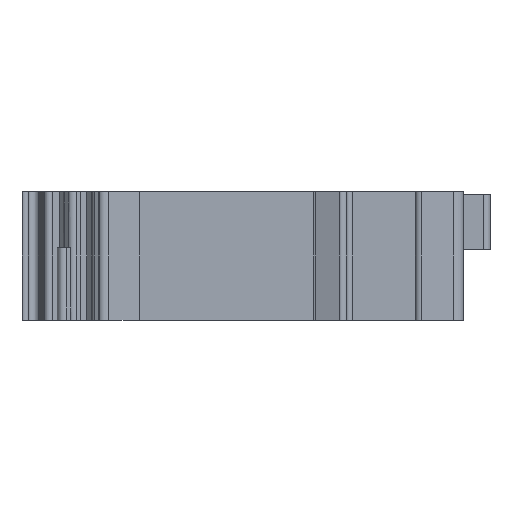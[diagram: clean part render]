
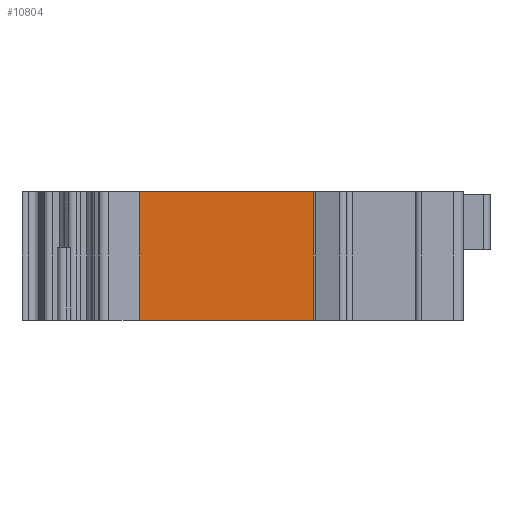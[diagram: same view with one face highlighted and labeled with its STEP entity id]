
A CAD part, left-side view. The second image highlights one B-rep face of the part: STEP entity #10804.
In plain terms, the highlighted planar face has unit normal (-1, 0, 0).
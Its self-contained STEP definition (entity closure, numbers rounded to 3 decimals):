
#73 = VECTOR ( 'NONE', #12873, 1000. ) ;
#390 = ORIENTED_EDGE ( 'NONE', *, *, #16065, .F. ) ;
#520 = VECTOR ( 'NONE', #14990, 1000. ) ;
#619 = DIRECTION ( 'NONE',  ( 0., -1., 0. ) ) ;
#2618 = CARTESIAN_POINT ( 'NONE',  ( -37., 25.72, -6. ) ) ;
#3155 = EDGE_CURVE ( 'NONE', #10424, #6028, #15577, .T. ) ;
#4250 = DIRECTION ( 'NONE',  ( 0., 0., -1. ) ) ;
#5583 = EDGE_CURVE ( 'NONE', #9738, #10424, #16577, .T. ) ;
#6028 = VERTEX_POINT ( 'NONE', #8710 ) ;
#6175 = CARTESIAN_POINT ( 'NONE',  ( -37., 25.72, 6. ) ) ;
#7512 = ORIENTED_EDGE ( 'NONE', *, *, #3155, .T. ) ;
#7722 = DIRECTION ( 'NONE',  ( 0., 0., -1. ) ) ;
#8305 = VECTOR ( 'NONE', #619, 1000. ) ;
#8518 = VECTOR ( 'NONE', #7722, 1000. ) ;
#8710 = CARTESIAN_POINT ( 'NONE',  ( -37., 9.449, -6. ) ) ;
#9738 = VERTEX_POINT ( 'NONE', #6175 ) ;
#10424 = VERTEX_POINT ( 'NONE', #25423 ) ;
#10804 = ADVANCED_FACE ( 'NONE', ( #15453 ), #16434, .F. ) ;
#11058 = AXIS2_PLACEMENT_3D ( 'NONE', #16524, #22758, #4250 ) ;
#12648 = LINE ( 'NONE', #21330, #73 ) ;
#12873 = DIRECTION ( 'NONE',  ( 0., -1., 0. ) ) ;
#14822 = VERTEX_POINT ( 'NONE', #20722 ) ;
#14990 = DIRECTION ( 'NONE',  ( 0., 0., -1. ) ) ;
#15453 = FACE_OUTER_BOUND ( 'NONE', #22182, .T. ) ;
#15577 = LINE ( 'NONE', #2618, #8305 ) ;
#15750 = CARTESIAN_POINT ( 'NONE',  ( -37., 9.449, 6. ) ) ;
#15776 = LINE ( 'NONE', #15750, #8518 ) ;
#16065 = EDGE_CURVE ( 'NONE', #9738, #14822, #12648, .T. ) ;
#16434 = PLANE ( 'NONE',  #11058 ) ;
#16524 = CARTESIAN_POINT ( 'NONE',  ( -37., 25.72, 6. ) ) ;
#16577 = LINE ( 'NONE', #25023, #520 ) ;
#16680 = EDGE_CURVE ( 'NONE', #14822, #6028, #15776, .T. ) ;
#17360 = ORIENTED_EDGE ( 'NONE', *, *, #5583, .T. ) ;
#18654 = ORIENTED_EDGE ( 'NONE', *, *, #16680, .F. ) ;
#20722 = CARTESIAN_POINT ( 'NONE',  ( -37., 9.449, 6. ) ) ;
#21330 = CARTESIAN_POINT ( 'NONE',  ( -37., 25.72, 6. ) ) ;
#22182 = EDGE_LOOP ( 'NONE', ( #7512, #18654, #390, #17360 ) ) ;
#22758 = DIRECTION ( 'NONE',  ( 1., 0., 0. ) ) ;
#25023 = CARTESIAN_POINT ( 'NONE',  ( -37., 25.72, 6. ) ) ;
#25423 = CARTESIAN_POINT ( 'NONE',  ( -37., 25.72, -6. ) ) ;
